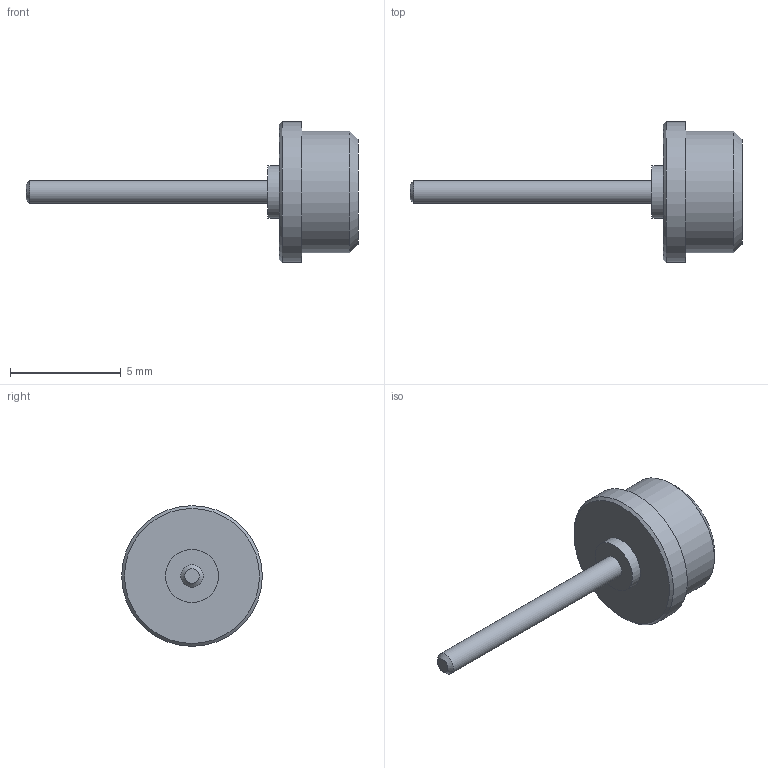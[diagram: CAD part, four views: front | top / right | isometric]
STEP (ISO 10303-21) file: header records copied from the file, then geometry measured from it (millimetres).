
FILE_DESCRIPTION(/* description */ (''),/* implementation_level */ '2;1');
FILE_NAME(/* name */ '\\Snap1\dwgs\Customer 3D Models\571\571-4134-01 Customer model.stp',/* time_stamp */ '2017-01-05T17:09:35+00:00',/* author */ ('paulk'),/* organization */ (''),/* preprocessor_version */ 'ST-DEVELOPER v15.2',/* originating_system */ 'Autodesk Inventor 2014',/* authorisation */ '');
FILE_SCHEMA (('CONFIG_CONTROL_DESIGN'));
Length unit declared in the file: millimetre
Products named in the file (1): 571-4134-01 Customer model
Bounding box: 14.99 x 6.35 x 6.35 mm (x, y, z)
Volume: 102 mm3; surface area: 160.1 mm2
Topology: 1 solids, 1 shells, 12 faces, 18 edges, 11 vertices
Faces by surface type: plane 5, cylinder 4, cone 3
Full cylindrical faces by diameter (mm): 1.016 x1, 2.388 x1, 5.486 x1, 6.35 x1
Entity records: 281 total; most frequent: DIRECTION 48, CARTESIAN_POINT 35, AXIS2_PLACEMENT_3D 24, EDGE_LOOP 22, ORIENTED_EDGE 22, FACE_BOUND 13, STYLED_ITEM 13, ADVANCED_FACE 12
